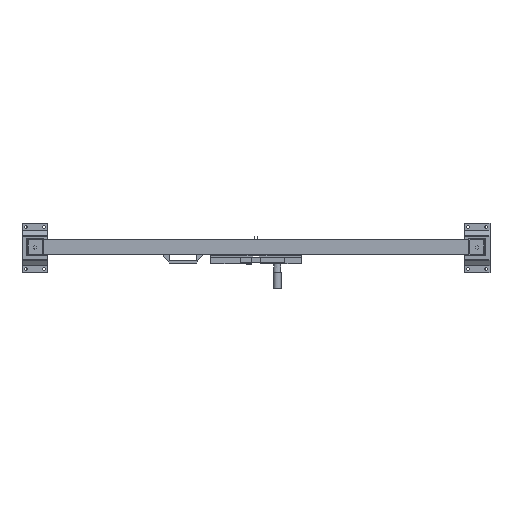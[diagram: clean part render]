
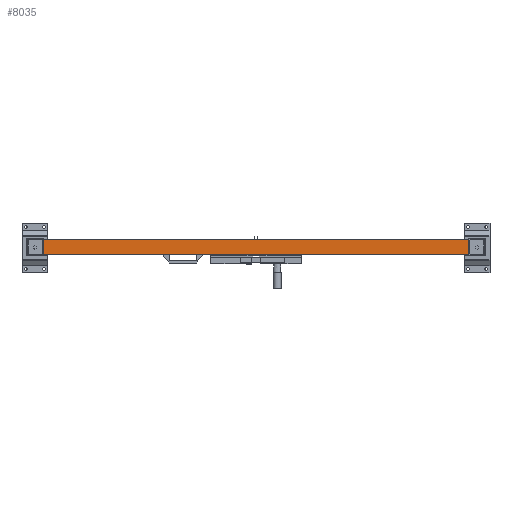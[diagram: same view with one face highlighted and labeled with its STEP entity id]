
A CAD part, top view. The second image highlights one B-rep face of the part: STEP entity #8035.
In plain terms, the highlighted planar face has unit normal (0, 0, 1).
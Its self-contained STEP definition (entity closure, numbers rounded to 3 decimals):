
#762=FACE_OUTER_BOUND('',#1173,.T.);
#1173=EDGE_LOOP('',(#5651,#5652,#5653,#5654));
#1684=LINE('',#11299,#2700);
#1685=LINE('',#11302,#2701);
#1686=LINE('',#11304,#2702);
#1687=LINE('',#11305,#2703);
#2700=VECTOR('',#9130,1.);
#2701=VECTOR('',#9133,1.);
#2702=VECTOR('',#9134,1.);
#2703=VECTOR('',#9135,1.);
#3693=VERTEX_POINT('',#11292);
#3696=VERTEX_POINT('',#11297);
#3697=VERTEX_POINT('',#11301);
#3698=VERTEX_POINT('',#11303);
#4489=EDGE_CURVE('',#3693,#3696,#1684,.T.);
#4490=EDGE_CURVE('',#3697,#3693,#1685,.T.);
#4491=EDGE_CURVE('',#3698,#3696,#1686,.T.);
#4492=EDGE_CURVE('',#3697,#3698,#1687,.T.);
#5651=ORIENTED_EDGE('',*,*,#4490,.T.);
#5652=ORIENTED_EDGE('',*,*,#4489,.T.);
#5653=ORIENTED_EDGE('',*,*,#4491,.F.);
#5654=ORIENTED_EDGE('',*,*,#4492,.F.);
#7670=PLANE('',#8477);
#8035=ADVANCED_FACE('',(#762),#7670,.T.);
#8477=AXIS2_PLACEMENT_3D('',#11300,#9131,#9132);
#9130=DIRECTION('',(1.,0.,0.));
#9131=DIRECTION('center_axis',(0.,0.,1.));
#9132=DIRECTION('ref_axis',(0.,-1.,0.));
#9133=DIRECTION('',(0.,-1.,0.));
#9134=DIRECTION('',(0.,-1.,0.));
#9135=DIRECTION('',(1.,0.,0.));
#11292=CARTESIAN_POINT('',(1904.449,1615.841,2099.));
#11297=CARTESIAN_POINT('',(3544.449,1615.841,2099.));
#11299=CARTESIAN_POINT('',(1904.449,1615.841,2099.));
#11300=CARTESIAN_POINT('Origin',(1904.449,1675.841,2099.));
#11301=CARTESIAN_POINT('',(1904.449,1675.841,2099.));
#11302=CARTESIAN_POINT('',(1904.449,1675.841,2099.));
#11303=CARTESIAN_POINT('',(3544.449,1675.841,2099.));
#11304=CARTESIAN_POINT('',(3544.449,1675.841,2099.));
#11305=CARTESIAN_POINT('',(1904.449,1675.841,2099.));
